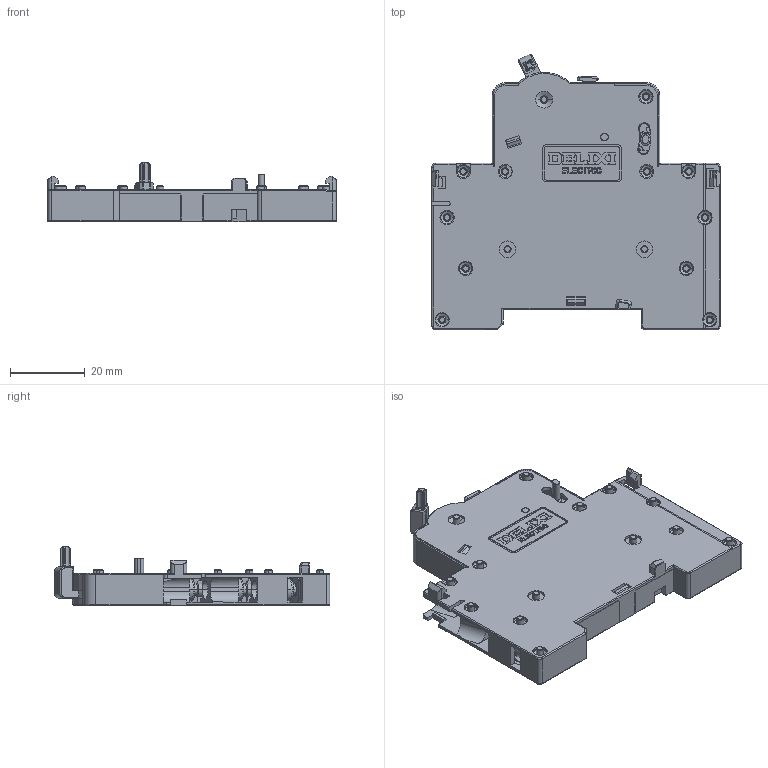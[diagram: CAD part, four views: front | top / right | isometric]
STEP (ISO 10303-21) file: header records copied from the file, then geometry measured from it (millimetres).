
FILE_DESCRIPTION((''),'2;1');
FILE_NAME('2297007300_SW0001','2023-11-07T',('dufeng.zhai'),(''),'PRO/ENGINEER BY PARAMETRIC TECHNOLOGY CORPORATION, 2015440','PRO/ENGINEER BY PARAMETRIC TECHNOLOGY CORPORATION, 2015440','');
FILE_SCHEMA(('CONFIG_CONTROL_DESIGN'));
Products named in the file (1): 2297007300_SW0001
Bounding box: 77 x 73.66 x 15.9 mm (x, y, z)
Volume: 25695.1 mm3; surface area: 24674.3 mm2
Topology: 1 solids, 1 shells, 2545 faces, 7023 edges, 4495 vertices
Faces by surface type: plane 1635, cylinder 553, cone 168, torus 115, extrusion 43, bspline 29, sphere 2
Entity records: 84453 total; most frequent: CARTESIAN_POINT 19777, ORIENTED_EDGE 14046, DIRECTION 12706, EDGE_CURVE 7023, VECTOR 5036, LINE 4993, VERTEX_POINT 4495, AXIS2_PLACEMENT_3D 3835
